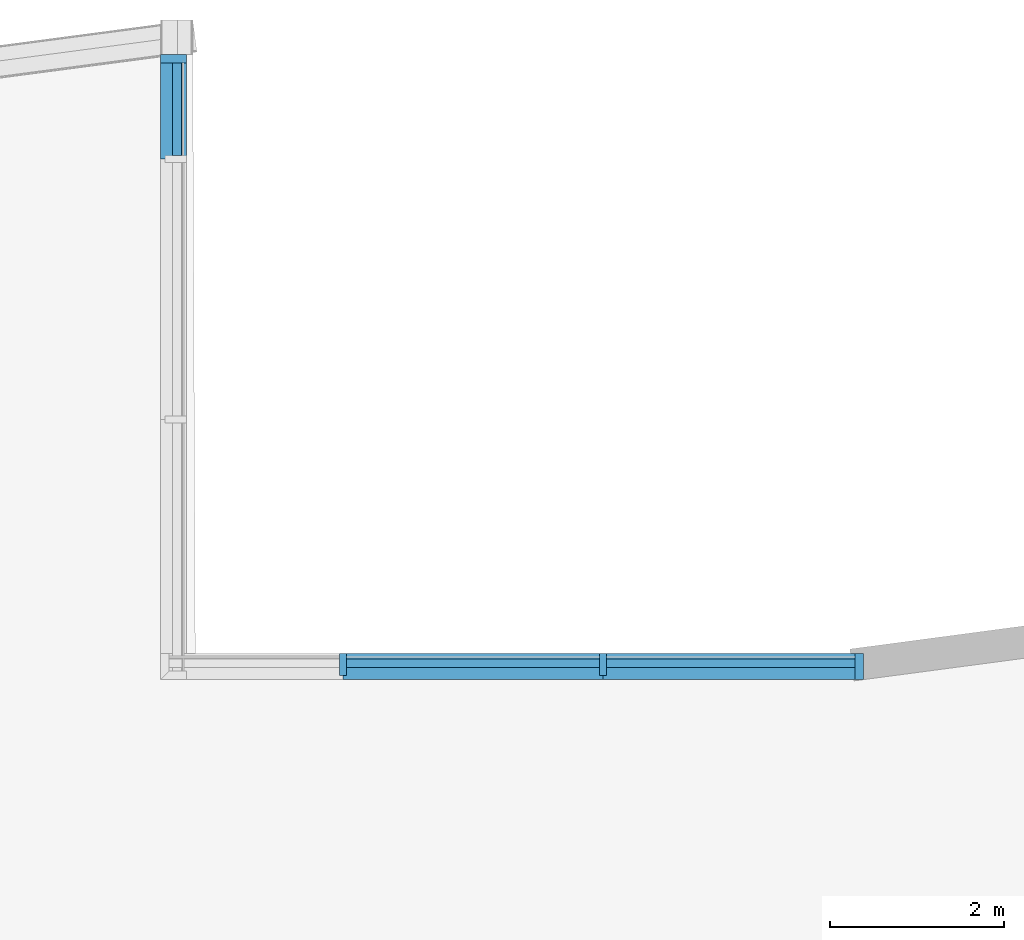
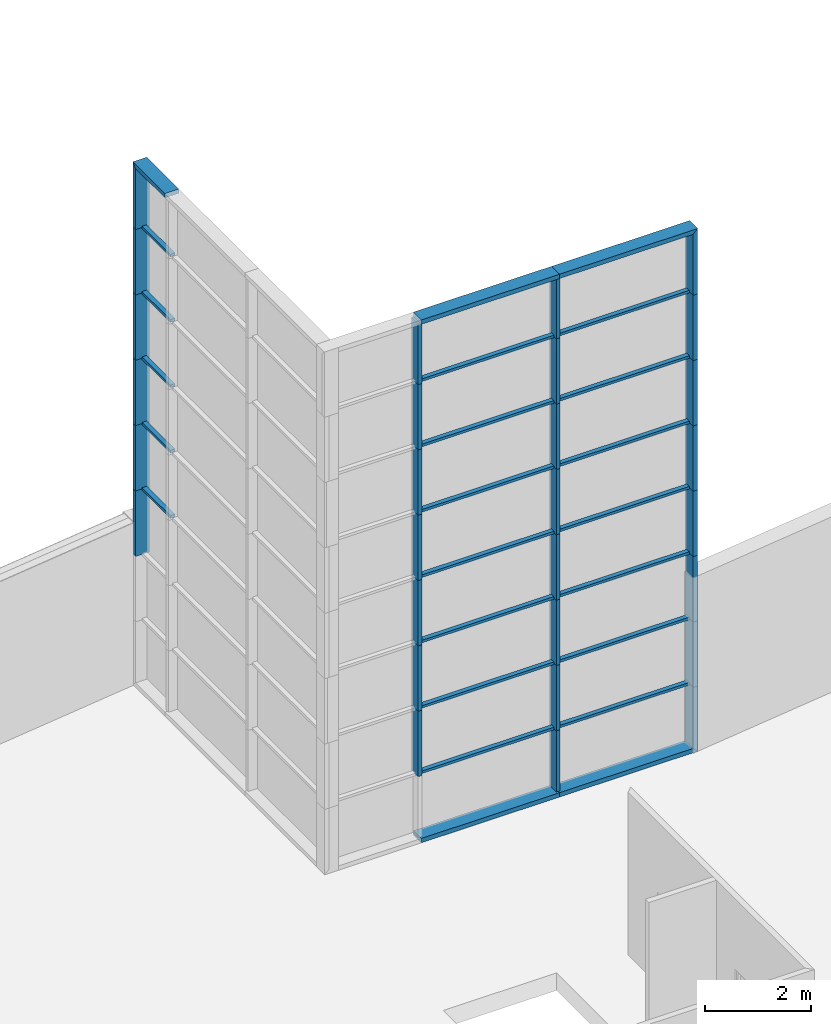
# One storey, part 8 of 27: 53 members, 2 elements without a shape of their own.
"""IFC2X3 building model written with IfcOpenShell, lengths in metres."""

from ifc_helpers import new_model, entity, si_unit, converted_unit, money_unit, direction, frame, origin_with_axes, place, context, subcontext, project, spatial, polyline, outline, extrude, clip, halfspace, material, type_object, element, aggregate, save


model = new_model("IFC2X3")

# Units and contexts
model_context = context("Model", 3, precision=1e-05, world=origin_with_axes(), true_north=direction((0.0, 1.0)))
body_context = subcontext(model_context, "Body", "Model", "MODEL_VIEW")
ifc_project = project(units=[si_unit("LENGTHUNIT", "METRE"), si_unit("AREAUNIT", "SQUARE_METRE"), si_unit("VOLUMEUNIT", "CUBIC_METRE"), converted_unit("PLANEANGLEUNIT", "DEGREE", entity("IfcPlaneAngleMeasure", 0.0174532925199), si_unit("PLANEANGLEUNIT", "RADIAN"), dimensions=[0, 0, 0, 0, 0, 0, 0]), si_unit("SOLIDANGLEUNIT", "STERADIAN"), money_unit("EUR"), converted_unit("TIMEUNIT", "Year", entity("IfcTimeMeasure", 31556926.0), si_unit("TIMEUNIT", "SECOND"), dimensions=[0, 0, 0, 0, 0, 0, 0]), si_unit("MASSUNIT", "GRAM"), si_unit("THERMODYNAMICTEMPERATUREUNIT", "DEGREE_CELSIUS"), si_unit("LUMINOUSINTENSITYUNIT", "LUMEN")], contexts=[model_context])

# Site, building, storey
site_placement = place(None, origin_with_axes())
site = spatial("IfcSite", under=ifc_project, at=site_placement, Name="Undefined", CompositionType="ELEMENT")
building_placement = place(site_placement, origin_with_axes())
building = spatial("IfcBuilding", under=site, at=building_placement, Name="Undefined", CompositionType="ELEMENT")
storey_placement = place(building_placement, frame((0.0, 0.0, 5.4), z_axis=(0.0, 0.0, 1.0), x_axis=(1.0, 0.0, 0.0)))
storey = spatial("IfcBuildingStorey", under=building, at=storey_placement, Name="R+1", CompositionType="ELEMENT", Elevation=5.4)

# Curtain wall, members
curtain_wall_type = type_object("IfcCurtainWallType", Name="Type de mur-rideau", PredefinedType="NOTDEFINED")
curtain_wall_1_placement = place(storey_placement, frame((29.5, 25.04409, 0.0), z_axis=(0.0, 0.0, 1.0), x_axis=(1.0, 0.0, 0.0)))
curtain_wall_1 = element("IfcCurtainWall", 1, at=curtain_wall_1_placement, inside=storey, type_object=curtain_wall_type, Name="CurtainWall_01", ObjectType="CURTAIN WALL")
ifc_material = material(Name="25 % 359672764")
member_type_1 = type_object("IfcMemberType", Name="Cadre 100 x 300", PredefinedType="NOTDEFINED")
member_1_placement = place(curtain_wall_1_placement, frame((0.0, 4.5, 12.0), z_axis=(0.0, 1.0, 0.0), x_axis=(0.0, 0.0, 1.0)))
member_1 = element("IfcMember", 2, at=member_1_placement, type_object=member_type_1, material=ifc_material, Name="Frame-Bnd-270", context=body_context, shape_type="Clipping", body=[
    clip(extrude(outline(polyline([(-0.25, 0.0), (0.05, 0.0), (0.05, 0.1), (-0.25, 0.1), (-0.25, 0.0)])), frame((0.0, 0.0, 0.0), z_axis=(0.0, 0.0, 1.0), x_axis=(0.0, 1.0, 0.0)), (0.0, 0.0, 1.0), 1.20529012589), halfspace(frame((-0.602645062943, 0.0, 0.602645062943), z_axis=(0.707106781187, 0.0, -0.707106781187), x_axis=(0.0, 1.0, 0.0)), True)),
])
member_2_placement = place(curtain_wall_1_placement, frame((0.0, 5.70529012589, 10.5), z_axis=(0.0, 0.0, 1.0), x_axis=(0.0, -1.0, 0.0)))
member_2 = element("IfcMember", 3, at=member_2_placement, type_object=member_type_1, material=ifc_material, Name="Frame-Bnd-261", context=body_context, shape_type="Clipping", body=[
    clip(extrude(outline(polyline([(-0.25, -0.1), (0.05, -0.1), (0.05, 0.0), (-0.25, 0.0), (-0.25, -0.1)])), frame((0.0, 0.0, 0.0), z_axis=(0.0, 0.0, 1.0), x_axis=(0.0, 1.0, 0.0)), (0.0, 0.0, 1.0), 1.5), halfspace(frame((0.75, 0.0, 0.75), z_axis=(-0.707106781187, 0.0, -0.707106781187), x_axis=(0.0, 1.0, 0.0)), True)),
])
member_3_placement = place(curtain_wall_1_placement, frame((0.0, 5.70529012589, 9.0), z_axis=(0.0, 0.0, 1.0), x_axis=(0.0, -1.0, 0.0)))
member_3 = element("IfcMember", 4, at=member_3_placement, type_object=member_type_1, material=ifc_material, Name="Frame-Bnd-262", context=body_context, shape_type="SweptSolid", body=[
    extrude(outline(polyline([(-0.25, -0.1), (0.05, -0.1), (0.05, 0.0), (-0.25, 0.0), (-0.25, -0.1)])), frame((0.0, 0.0, 0.0), z_axis=(0.0, 0.0, 1.0), x_axis=(0.0, 1.0, 0.0)), (0.0, 0.0, 1.0), 1.5),
])
member_4_placement = place(curtain_wall_1_placement, frame((0.0, 5.70529012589, 7.5), z_axis=(0.0, 0.0, 1.0), x_axis=(0.0, -1.0, 0.0)))
member_4 = element("IfcMember", 5, at=member_4_placement, type_object=member_type_1, material=ifc_material, Name="Frame-Bnd-263", context=body_context, shape_type="SweptSolid", body=[
    extrude(outline(polyline([(-0.25, -0.1), (0.05, -0.1), (0.05, 0.0), (-0.25, 0.0), (-0.25, -0.1)])), frame((0.0, 0.0, 0.0), z_axis=(0.0, 0.0, 1.0), x_axis=(0.0, 1.0, 0.0)), (0.0, 0.0, 1.0), 1.5),
])
member_5_placement = place(curtain_wall_1_placement, frame((0.0, 5.70529012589, 6.0), z_axis=(0.0, 0.0, 1.0), x_axis=(0.0, -1.0, 0.0)))
member_5 = element("IfcMember", 6, at=member_5_placement, type_object=member_type_1, material=ifc_material, Name="Frame-Bnd-264", context=body_context, shape_type="SweptSolid", body=[
    extrude(outline(polyline([(-0.25, -0.1), (0.05, -0.1), (0.05, 0.0), (-0.25, 0.0), (-0.25, -0.1)])), frame((0.0, 0.0, 0.0), z_axis=(0.0, 0.0, 1.0), x_axis=(0.0, 1.0, 0.0)), (0.0, 0.0, 1.0), 1.5),
])
member_6_placement = place(curtain_wall_1_placement, frame((0.0, 5.70529012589, 4.5), z_axis=(0.0, 0.0, 1.0), x_axis=(0.0, -1.0, 0.0)))
member_6 = element("IfcMember", 7, at=member_6_placement, type_object=member_type_1, material=ifc_material, Name="Frame-Bnd-265", context=body_context, shape_type="SweptSolid", body=[
    extrude(outline(polyline([(-0.25, -0.1), (0.05, -0.1), (0.05, 0.0), (-0.25, 0.0), (-0.25, -0.1)])), frame((0.0, 0.0, 0.0), z_axis=(0.0, 0.0, 1.0), x_axis=(0.0, 1.0, 0.0)), (0.0, 0.0, 1.0), 1.5),
])
member_7_placement = place(curtain_wall_1_placement, frame((0.0, 5.70529012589, 3.0), z_axis=(0.0, 0.0, 1.0), x_axis=(0.0, -1.0, 0.0)))
member_7 = element("IfcMember", 8, at=member_7_placement, type_object=member_type_1, material=ifc_material, Name="Frame-Bnd-266", context=body_context, shape_type="SweptSolid", body=[
    extrude(outline(polyline([(-0.25, -0.1), (0.05, -0.1), (0.05, 0.0), (-0.25, 0.0), (-0.25, -0.1)])), frame((0.0, 0.0, 0.0), z_axis=(0.0, 0.0, 1.0), x_axis=(0.0, 1.0, 0.0)), (0.0, 0.0, 1.0), 1.5),
])

curtain_wall_2_placement = place(storey_placement, frame((35.8499996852, 23.7940983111, 0.0), z_axis=(0.0, 0.0, 1.0), x_axis=(1.0, 0.0, 0.0)))
curtain_wall_2 = element("IfcCurtainWall", 9, at=curtain_wall_2_placement, inside=storey, type_object=curtain_wall_type, Name="CurtainWall_01", ObjectType="CURTAIN WALL")
member_8_placement = place(curtain_wall_2_placement, frame((1.5, 1.88888657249e-06, 0.0), z_axis=(-0.999999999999, -1.25925771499e-06, 0.0), x_axis=(0.0, 0.0, 1.0)))
member_8 = element("IfcMember", 10, at=member_8_placement, type_object=member_type_1, material=ifc_material, Name="Frame-Bnd-120", context=body_context, shape_type="Clipping", body=[
    clip(extrude(outline(polyline([(-0.25, -0.1), (0.05, -0.1), (0.05, 0.0), (-0.25, 0.0), (-0.25, -0.1)])), frame((0.0, 0.0, 0.0), z_axis=(0.0, 0.0, 1.0), x_axis=(0.0, 1.0, 0.0)), (0.0, 0.0, 1.0), 3.0), halfspace(frame((0.0, 0.0, 0.0), z_axis=(-0.707106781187, 0.0, 0.707106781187), x_axis=(0.0, -1.0, 0.0)), True)),
])
member_9_placement = place(curtain_wall_2_placement, frame((1.5, 1.88888657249e-06, 0.0), z_axis=(0.0, 0.0, 1.0), x_axis=(0.999999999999, 1.25925765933e-06, 0.0)))
member_9 = element("IfcMember", 11, at=member_9_placement, type_object=member_type_1, material=ifc_material, Name="Frame-Bnd-150", context=body_context, shape_type="Clipping", body=[
    clip(extrude(outline(polyline([(3.14814414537e-07, -0.25), (-6.29628829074e-08, 0.05), (-0.100000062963, 0.0499998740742), (-0.0999996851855, -0.250000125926), (3.14814414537e-07, -0.25)])), frame((0.0, 0.0, 0.0), z_axis=(0.0, 0.0, 1.0), x_axis=(0.999999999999, -1.25925765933e-06, 0.0)), (0.0, 0.0, 1.0), 1.5), halfspace(frame((0.0, 0.0, 0.0), z_axis=(0.707106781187, 0.0, 0.707106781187), x_axis=(0.0, -1.0, 0.0)), True)),
])
member_10_placement = place(curtain_wall_2_placement, frame((-1.5, -1.88888657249e-06, 0.0), z_axis=(-0.999999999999, -1.25925756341e-06, 0.0), x_axis=(0.0, 0.0, 1.0)))
member_10 = element("IfcMember", 12, at=member_10_placement, type_object=member_type_1, material=ifc_material, Name="Frame-Bnd-121", context=body_context, shape_type="SweptSolid", body=[
    extrude(outline(polyline([(-0.25, -0.1), (0.05, -0.1), (0.05, 0.0), (-0.25, 0.0), (-0.25, -0.1)])), frame((0.0, 0.0, 0.0), z_axis=(0.0, 0.0, 1.0), x_axis=(0.0, 1.0, 0.0)), (0.0, 0.0, 1.0), 3.0),
])
member_11_placement = place(curtain_wall_2_placement, frame((1.5, 1.88888657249e-06, 1.5), z_axis=(0.0, 0.0, 1.0), x_axis=(0.999999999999, 1.25925765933e-06, 0.0)))
member_11 = element("IfcMember", 13, at=member_11_placement, type_object=member_type_1, material=ifc_material, Name="Frame-Bnd-151", context=body_context, shape_type="SweptSolid", body=[
    extrude(outline(polyline([(3.14814414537e-07, -0.25), (-6.29628829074e-08, 0.05), (-0.100000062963, 0.0499998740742), (-0.0999996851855, -0.250000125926), (3.14814414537e-07, -0.25)])), frame((0.0, 0.0, 0.0), z_axis=(0.0, 0.0, 1.0), x_axis=(0.999999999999, -1.25925765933e-06, 0.0)), (0.0, 0.0, 1.0), 1.5),
])
member_12_placement = place(curtain_wall_2_placement, frame((1.5, 1.88888657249e-06, 3.0), z_axis=(0.0, 0.0, 1.0), x_axis=(0.999999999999, 1.25925765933e-06, 0.0)))
member_12 = element("IfcMember", 14, at=member_12_placement, type_object=member_type_1, material=ifc_material, Name="Frame-Bnd-152", context=body_context, shape_type="SweptSolid", body=[
    extrude(outline(polyline([(3.14814414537e-07, -0.25), (-6.29628829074e-08, 0.05), (-0.100000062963, 0.0499998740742), (-0.0999996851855, -0.250000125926), (3.14814414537e-07, -0.25)])), frame((0.0, 0.0, 0.0), z_axis=(0.0, 0.0, 1.0), x_axis=(0.999999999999, -1.25925765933e-06, 0.0)), (0.0, 0.0, 1.0), 1.5),
])
member_13_placement = place(curtain_wall_2_placement, frame((1.5, 1.88888657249e-06, 4.5), z_axis=(0.0, 0.0, 1.0), x_axis=(0.999999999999, 1.25925765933e-06, 0.0)))
member_13 = element("IfcMember", 15, at=member_13_placement, type_object=member_type_1, material=ifc_material, Name="Frame-Bnd-153", context=body_context, shape_type="SweptSolid", body=[
    extrude(outline(polyline([(3.14814414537e-07, -0.25), (-6.29628829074e-08, 0.05), (-0.100000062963, 0.0499998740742), (-0.0999996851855, -0.250000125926), (3.14814414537e-07, -0.25)])), frame((0.0, 0.0, 0.0), z_axis=(0.0, 0.0, 1.0), x_axis=(0.999999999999, -1.25925765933e-06, 0.0)), (0.0, 0.0, 1.0), 1.5),
])
member_14_placement = place(curtain_wall_2_placement, frame((1.5, 1.88888657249e-06, 6.0), z_axis=(0.0, 0.0, 1.0), x_axis=(0.999999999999, 1.25925765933e-06, 0.0)))
member_14 = element("IfcMember", 16, at=member_14_placement, type_object=member_type_1, material=ifc_material, Name="Frame-Bnd-154", context=body_context, shape_type="SweptSolid", body=[
    extrude(outline(polyline([(3.14814414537e-07, -0.25), (-6.29628829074e-08, 0.05), (-0.100000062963, 0.0499998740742), (-0.0999996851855, -0.250000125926), (3.14814414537e-07, -0.25)])), frame((0.0, 0.0, 0.0), z_axis=(0.0, 0.0, 1.0), x_axis=(0.999999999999, -1.25925765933e-06, 0.0)), (0.0, 0.0, 1.0), 1.5),
])
member_15_placement = place(curtain_wall_2_placement, frame((1.5, 1.88888657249e-06, 7.5), z_axis=(0.0, 0.0, 1.0), x_axis=(0.999999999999, 1.25925765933e-06, 0.0)))
member_15 = element("IfcMember", 17, at=member_15_placement, type_object=member_type_1, material=ifc_material, Name="Frame-Bnd-155", context=body_context, shape_type="SweptSolid", body=[
    extrude(outline(polyline([(3.14814414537e-07, -0.25), (-6.29628829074e-08, 0.05), (-0.100000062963, 0.0499998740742), (-0.0999996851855, -0.250000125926), (3.14814414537e-07, -0.25)])), frame((0.0, 0.0, 0.0), z_axis=(0.0, 0.0, 1.0), x_axis=(0.999999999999, -1.25925765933e-06, 0.0)), (0.0, 0.0, 1.0), 1.5),
])
member_16_placement = place(curtain_wall_2_placement, frame((1.5, 1.88888657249e-06, 9.0), z_axis=(0.0, 0.0, 1.0), x_axis=(0.999999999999, 1.25925765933e-06, 0.0)))
member_16 = element("IfcMember", 18, at=member_16_placement, type_object=member_type_1, material=ifc_material, Name="Frame-Bnd-156", context=body_context, shape_type="SweptSolid", body=[
    extrude(outline(polyline([(3.14814414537e-07, -0.25), (-6.29628829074e-08, 0.05), (-0.100000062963, 0.0499998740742), (-0.0999996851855, -0.250000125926), (3.14814414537e-07, -0.25)])), frame((0.0, 0.0, 0.0), z_axis=(0.0, 0.0, 1.0), x_axis=(0.999999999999, -1.25925765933e-06, 0.0)), (0.0, 0.0, 1.0), 1.5),
])
member_17_placement = place(curtain_wall_2_placement, frame((1.5, 1.88888657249e-06, 10.5), z_axis=(0.0, 0.0, 1.0), x_axis=(0.999999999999, 1.25925765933e-06, 0.0)))
member_17 = element("IfcMember", 19, at=member_17_placement, type_object=member_type_1, material=ifc_material, Name="Frame-Bnd-157", context=body_context, shape_type="Clipping", body=[
    clip(extrude(outline(polyline([(3.14814414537e-07, -0.25), (-6.29628829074e-08, 0.05), (-0.100000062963, 0.0499998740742), (-0.0999996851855, -0.250000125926), (3.14814414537e-07, -0.25)])), frame((0.0, 0.0, 0.0), z_axis=(0.0, 0.0, 1.0), x_axis=(0.999999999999, -1.25925765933e-06, 0.0)), (0.0, 0.0, 1.0), 1.5), halfspace(frame((-0.75, 0.0, 0.75), z_axis=(0.707106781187, 0.0, -0.707106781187), x_axis=(0.0, 1.0, 0.0)), True)),
])
member_18_placement = place(curtain_wall_2_placement, frame((1.5, 1.88888657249e-06, 12.0), z_axis=(-0.999999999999, -1.25925771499e-06, 0.0), x_axis=(0.0, 0.0, 1.0)))
member_18 = element("IfcMember", 20, at=member_18_placement, type_object=member_type_1, material=ifc_material, Name="Frame-Bnd-178", context=body_context, shape_type="Clipping", body=[
    clip(extrude(outline(polyline([(-0.25, 0.0), (0.05, 0.0), (0.05, 0.1), (-0.25, 0.1), (-0.25, 0.0)])), frame((0.0, 0.0, 0.0), z_axis=(0.0, 0.0, 1.0), x_axis=(0.0, 1.0, 0.0)), (0.0, 0.0, 1.0), 3.0), halfspace(frame((0.0, 0.0, 0.0), z_axis=(0.707106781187, 0.0, 0.707106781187), x_axis=(0.0, -1.0, 0.0)), True)),
])
member_19_placement = place(curtain_wall_2_placement, frame((-1.5, -1.88888657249e-06, 12.0), z_axis=(-0.999999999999, -1.25925756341e-06, 0.0), x_axis=(0.0, 0.0, 1.0)))
member_19 = element("IfcMember", 21, at=member_19_placement, type_object=member_type_1, material=ifc_material, Name="Frame-Bnd-178", context=body_context, shape_type="SweptSolid", body=[
    extrude(outline(polyline([(-0.25, 0.0), (0.05, 0.0), (0.05, 0.1), (-0.25, 0.1), (-0.25, 0.0)])), frame((0.0, 0.0, 0.0), z_axis=(0.0, 0.0, 1.0), x_axis=(0.0, 1.0, 0.0)), (0.0, 0.0, 1.0), 3.0),
])
member_type_2 = type_object("IfcMemberType", Name="Montant 80 x 250", PredefinedType="NOTDEFINED")
member_20_placement = place(curtain_wall_2_placement, frame((-1.5, -1.88888657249e-06, 0.0), z_axis=(0.0, 0.0, 1.0), x_axis=(0.999999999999, 1.25925765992e-06, 0.0)))
member_20 = element("IfcMember", 22, at=member_20_placement, type_object=member_type_2, material=ifc_material, Name="Frame-Mll-414", context=body_context, shape_type="SweptSolid", body=[
    extrude(outline(polyline([(0.0400002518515, -0.19999994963), (0.0399999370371, 0.0500000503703), (-0.0400000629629, 0.0499999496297), (-0.0399997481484, -0.20000005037), (0.0400002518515, -0.19999994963)])), frame((0.0, 0.0, 0.1), z_axis=(0.0, 0.0, 1.0), x_axis=(0.999999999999, -1.25925765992e-06, 0.0)), (0.0, 0.0, 1.0), 1.4),
])
member_21_placement = place(curtain_wall_2_placement, frame((-1.5, -1.88888657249e-06, 1.5), z_axis=(0.0, 0.0, 1.0), x_axis=(0.999999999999, 1.25925765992e-06, 0.0)))
member_21 = element("IfcMember", 23, at=member_21_placement, type_object=member_type_2, material=ifc_material, Name="Frame-Mll-416", context=body_context, shape_type="SweptSolid", body=[
    extrude(outline(polyline([(0.0400002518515, -0.19999994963), (0.0399999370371, 0.0500000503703), (-0.0400000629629, 0.0499999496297), (-0.0399997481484, -0.20000005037), (0.0400002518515, -0.19999994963)])), frame((0.0, 0.0, 0.0), z_axis=(0.0, 0.0, 1.0), x_axis=(0.999999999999, -1.25925765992e-06, 0.0)), (0.0, 0.0, 1.0), 1.5),
])
member_22_placement = place(curtain_wall_2_placement, frame((-4.5, -5.66665926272e-06, 1.5), z_axis=(0.0, 0.0, 1.0), x_axis=(0.999999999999, 1.25925765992e-06, 0.0)))
member_22 = element("IfcMember", 24, at=member_22_placement, type_object=member_type_2, material=ifc_material, Name="Frame-Mll-417", context=body_context, shape_type="SweptSolid", body=[
    extrude(outline(polyline([(0.0400002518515, -0.19999994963), (0.0399999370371, 0.0500000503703), (-0.0400000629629, 0.0499999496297), (-0.0399997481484, -0.20000005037), (0.0400002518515, -0.19999994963)])), frame((0.0, 0.0, 0.0), z_axis=(0.0, 0.0, 1.0), x_axis=(0.999999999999, -1.25925765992e-06, 0.0)), (0.0, 0.0, 1.0), 1.5),
])
member_23_placement = place(curtain_wall_2_placement, frame((-1.5, -1.88888657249e-06, 3.0), z_axis=(0.0, 0.0, 1.0), x_axis=(0.999999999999, 1.25925765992e-06, 0.0)))
member_23 = element("IfcMember", 25, at=member_23_placement, type_object=member_type_2, material=ifc_material, Name="Frame-Mll-418", context=body_context, shape_type="SweptSolid", body=[
    extrude(outline(polyline([(0.0400002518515, -0.19999994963), (0.0399999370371, 0.0500000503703), (-0.0400000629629, 0.0499999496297), (-0.0399997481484, -0.20000005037), (0.0400002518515, -0.19999994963)])), frame((0.0, 0.0, 0.0), z_axis=(0.0, 0.0, 1.0), x_axis=(0.999999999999, -1.25925765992e-06, 0.0)), (0.0, 0.0, 1.0), 1.5),
])
member_24_placement = place(curtain_wall_2_placement, frame((-4.5, -5.66665926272e-06, 3.0), z_axis=(0.0, 0.0, 1.0), x_axis=(0.999999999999, 1.25925765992e-06, 0.0)))
member_24 = element("IfcMember", 26, at=member_24_placement, type_object=member_type_2, material=ifc_material, Name="Frame-Mll-419", context=body_context, shape_type="SweptSolid", body=[
    extrude(outline(polyline([(0.0400002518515, -0.19999994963), (0.0399999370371, 0.0500000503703), (-0.0400000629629, 0.0499999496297), (-0.0399997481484, -0.20000005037), (0.0400002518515, -0.19999994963)])), frame((0.0, 0.0, 0.0), z_axis=(0.0, 0.0, 1.0), x_axis=(0.999999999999, -1.25925765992e-06, 0.0)), (0.0, 0.0, 1.0), 1.5),
])
member_25_placement = place(curtain_wall_2_placement, frame((-1.5, -1.88888657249e-06, 4.5), z_axis=(0.0, 0.0, 1.0), x_axis=(0.999999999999, 1.25925765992e-06, 0.0)))
member_25 = element("IfcMember", 27, at=member_25_placement, type_object=member_type_2, material=ifc_material, Name="Frame-Mll-420", context=body_context, shape_type="SweptSolid", body=[
    extrude(outline(polyline([(0.0400002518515, -0.19999994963), (0.0399999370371, 0.0500000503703), (-0.0400000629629, 0.0499999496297), (-0.0399997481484, -0.20000005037), (0.0400002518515, -0.19999994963)])), frame((0.0, 0.0, 0.0), z_axis=(0.0, 0.0, 1.0), x_axis=(0.999999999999, -1.25925765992e-06, 0.0)), (0.0, 0.0, 1.0), 1.5),
])
member_26_placement = place(curtain_wall_2_placement, frame((-4.5, -5.66665926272e-06, 4.5), z_axis=(0.0, 0.0, 1.0), x_axis=(0.999999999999, 1.25925765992e-06, 0.0)))
member_26 = element("IfcMember", 28, at=member_26_placement, type_object=member_type_2, material=ifc_material, Name="Frame-Mll-421", context=body_context, shape_type="SweptSolid", body=[
    extrude(outline(polyline([(0.0400002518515, -0.19999994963), (0.0399999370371, 0.0500000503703), (-0.0400000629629, 0.0499999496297), (-0.0399997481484, -0.20000005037), (0.0400002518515, -0.19999994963)])), frame((0.0, 0.0, 0.0), z_axis=(0.0, 0.0, 1.0), x_axis=(0.999999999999, -1.25925765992e-06, 0.0)), (0.0, 0.0, 1.0), 1.5),
])
member_27_placement = place(curtain_wall_2_placement, frame((-1.5, -1.88888657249e-06, 6.0), z_axis=(0.0, 0.0, 1.0), x_axis=(0.999999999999, 1.25925765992e-06, 0.0)))
member_27 = element("IfcMember", 29, at=member_27_placement, type_object=member_type_2, material=ifc_material, Name="Frame-Mll-422", context=body_context, shape_type="SweptSolid", body=[
    extrude(outline(polyline([(0.0400002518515, -0.19999994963), (0.0399999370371, 0.0500000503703), (-0.0400000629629, 0.0499999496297), (-0.0399997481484, -0.20000005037), (0.0400002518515, -0.19999994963)])), frame((0.0, 0.0, 0.0), z_axis=(0.0, 0.0, 1.0), x_axis=(0.999999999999, -1.25925765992e-06, 0.0)), (0.0, 0.0, 1.0), 1.5),
])
member_28_placement = place(curtain_wall_2_placement, frame((-4.5, -5.66665926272e-06, 6.0), z_axis=(0.0, 0.0, 1.0), x_axis=(0.999999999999, 1.25925765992e-06, 0.0)))
member_28 = element("IfcMember", 30, at=member_28_placement, type_object=member_type_2, material=ifc_material, Name="Frame-Mll-423", context=body_context, shape_type="SweptSolid", body=[
    extrude(outline(polyline([(0.0400002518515, -0.19999994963), (0.0399999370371, 0.0500000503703), (-0.0400000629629, 0.0499999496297), (-0.0399997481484, -0.20000005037), (0.0400002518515, -0.19999994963)])), frame((0.0, 0.0, 0.0), z_axis=(0.0, 0.0, 1.0), x_axis=(0.999999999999, -1.25925765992e-06, 0.0)), (0.0, 0.0, 1.0), 1.5),
])
member_29_placement = place(curtain_wall_2_placement, frame((-1.5, -1.88888657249e-06, 7.5), z_axis=(0.0, 0.0, 1.0), x_axis=(0.999999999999, 1.25925765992e-06, 0.0)))
member_29 = element("IfcMember", 31, at=member_29_placement, type_object=member_type_2, material=ifc_material, Name="Frame-Mll-424", context=body_context, shape_type="SweptSolid", body=[
    extrude(outline(polyline([(0.0400002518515, -0.19999994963), (0.0399999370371, 0.0500000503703), (-0.0400000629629, 0.0499999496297), (-0.0399997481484, -0.20000005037), (0.0400002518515, -0.19999994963)])), frame((0.0, 0.0, 0.0), z_axis=(0.0, 0.0, 1.0), x_axis=(0.999999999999, -1.25925765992e-06, 0.0)), (0.0, 0.0, 1.0), 1.5),
])
member_30_placement = place(curtain_wall_2_placement, frame((-4.5, -5.66665926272e-06, 7.5), z_axis=(0.0, 0.0, 1.0), x_axis=(0.999999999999, 1.25925765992e-06, 0.0)))
member_30 = element("IfcMember", 32, at=member_30_placement, type_object=member_type_2, material=ifc_material, Name="Frame-Mll-425", context=body_context, shape_type="SweptSolid", body=[
    extrude(outline(polyline([(0.0400002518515, -0.19999994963), (0.0399999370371, 0.0500000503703), (-0.0400000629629, 0.0499999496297), (-0.0399997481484, -0.20000005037), (0.0400002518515, -0.19999994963)])), frame((0.0, 0.0, 0.0), z_axis=(0.0, 0.0, 1.0), x_axis=(0.999999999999, -1.25925765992e-06, 0.0)), (0.0, 0.0, 1.0), 1.5),
])
member_31_placement = place(curtain_wall_2_placement, frame((-1.5, -1.88888657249e-06, 9.0), z_axis=(0.0, 0.0, 1.0), x_axis=(0.999999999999, 1.25925765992e-06, 0.0)))
member_31 = element("IfcMember", 33, at=member_31_placement, type_object=member_type_2, material=ifc_material, Name="Frame-Mll-426", context=body_context, shape_type="SweptSolid", body=[
    extrude(outline(polyline([(0.0400002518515, -0.19999994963), (0.0399999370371, 0.0500000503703), (-0.0400000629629, 0.0499999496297), (-0.0399997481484, -0.20000005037), (0.0400002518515, -0.19999994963)])), frame((0.0, 0.0, 0.0), z_axis=(0.0, 0.0, 1.0), x_axis=(0.999999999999, -1.25925765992e-06, 0.0)), (0.0, 0.0, 1.0), 1.5),
])
member_32_placement = place(curtain_wall_2_placement, frame((-4.5, -5.66665926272e-06, 9.0), z_axis=(0.0, 0.0, 1.0), x_axis=(0.999999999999, 1.25925765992e-06, 0.0)))
member_32 = element("IfcMember", 34, at=member_32_placement, type_object=member_type_2, material=ifc_material, Name="Frame-Mll-427", context=body_context, shape_type="SweptSolid", body=[
    extrude(outline(polyline([(0.0400002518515, -0.19999994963), (0.0399999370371, 0.0500000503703), (-0.0400000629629, 0.0499999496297), (-0.0399997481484, -0.20000005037), (0.0400002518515, -0.19999994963)])), frame((0.0, 0.0, 0.0), z_axis=(0.0, 0.0, 1.0), x_axis=(0.999999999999, -1.25925765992e-06, 0.0)), (0.0, 0.0, 1.0), 1.5),
])
member_33_placement = place(curtain_wall_2_placement, frame((-1.5, -1.88888657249e-06, 10.5), z_axis=(0.0, 0.0, 1.0), x_axis=(0.999999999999, 1.25925765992e-06, 0.0)))
member_33 = element("IfcMember", 35, at=member_33_placement, type_object=member_type_2, material=ifc_material, Name="Frame-Mll-428", context=body_context, shape_type="SweptSolid", body=[
    extrude(outline(polyline([(0.0400002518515, -0.19999994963), (0.0399999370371, 0.0500000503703), (-0.0400000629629, 0.0499999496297), (-0.0399997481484, -0.20000005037), (0.0400002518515, -0.19999994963)])), frame((0.0, 0.0, 0.0), z_axis=(0.0, 0.0, 1.0), x_axis=(0.999999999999, -1.25925765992e-06, 0.0)), (0.0, 0.0, 1.0), 1.4),
])
member_34_placement = place(curtain_wall_2_placement, frame((-4.5, -5.66665926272e-06, 10.5), z_axis=(0.0, 0.0, 1.0), x_axis=(0.999999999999, 1.25925765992e-06, 0.0)))
member_34 = element("IfcMember", 36, at=member_34_placement, type_object=member_type_2, material=ifc_material, Name="Frame-Mll-429", context=body_context, shape_type="SweptSolid", body=[
    extrude(outline(polyline([(0.0400002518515, -0.19999994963), (0.0399999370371, 0.0500000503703), (-0.0400000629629, 0.0499999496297), (-0.0399997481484, -0.20000005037), (0.0400002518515, -0.19999994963)])), frame((0.0, 0.0, 0.0), z_axis=(0.0, 0.0, 1.0), x_axis=(0.999999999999, -1.25925765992e-06, 0.0)), (0.0, 0.0, 1.0), 1.4),
])

# Member
member_type_3 = type_object("IfcMemberType", Name="Traverse 60 x 100", PredefinedType="NOTDEFINED")
member_35_placement = place(curtain_wall_1_placement, frame((0.0, 4.5, 10.5), z_axis=(0.0, 1.0, 0.0), x_axis=(0.0, 0.0, 1.0)))
member_35 = element("IfcMember", 37, at=member_35_placement, type_object=member_type_3, material=ifc_material, Name="Frame-Trs-038", context=body_context, shape_type="SweptSolid", body=[
    extrude(outline(polyline([(-0.11, -0.03), (-0.01, -0.03), (-0.01, 0.03), (-0.11, 0.03), (-0.11, -0.03)])), frame((0.0, 0.0, 0.04), z_axis=(0.0, 0.0, 1.0), x_axis=(0.0, 1.0, 0.0)), (0.0, 0.0, 1.0), 1.06529012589),
])

member_36_placement = place(curtain_wall_1_placement, frame((0.0, 4.5, 9.0), z_axis=(0.0, 1.0, 0.0), x_axis=(0.0, 0.0, 1.0)))
member_36 = element("IfcMember", 38, at=member_36_placement, type_object=member_type_3, material=ifc_material, Name="Frame-Trs-039", context=body_context, shape_type="SweptSolid", body=[
    extrude(outline(polyline([(-0.11, -0.03), (-0.01, -0.03), (-0.01, 0.03), (-0.11, 0.03), (-0.11, -0.03)])), frame((0.0, 0.0, 0.04), z_axis=(0.0, 0.0, 1.0), x_axis=(0.0, 1.0, 0.0)), (0.0, 0.0, 1.0), 1.06529012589),
])

member_37_placement = place(curtain_wall_1_placement, frame((0.0, 4.5, 7.5), z_axis=(0.0, 1.0, 0.0), x_axis=(0.0, 0.0, 1.0)))
member_37 = element("IfcMember", 39, at=member_37_placement, type_object=member_type_3, material=ifc_material, Name="Frame-Trs-040", context=body_context, shape_type="SweptSolid", body=[
    extrude(outline(polyline([(-0.11, -0.03), (-0.01, -0.03), (-0.01, 0.03), (-0.11, 0.03), (-0.11, -0.03)])), frame((0.0, 0.0, 0.04), z_axis=(0.0, 0.0, 1.0), x_axis=(0.0, 1.0, 0.0)), (0.0, 0.0, 1.0), 1.06529012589),
])

member_38_placement = place(curtain_wall_1_placement, frame((0.0, 4.5, 6.0), z_axis=(0.0, 1.0, 0.0), x_axis=(0.0, 0.0, 1.0)))
member_38 = element("IfcMember", 40, at=member_38_placement, type_object=member_type_3, material=ifc_material, Name="Frame-Trs-041", context=body_context, shape_type="SweptSolid", body=[
    extrude(outline(polyline([(-0.11, -0.03), (-0.01, -0.03), (-0.01, 0.03), (-0.11, 0.03), (-0.11, -0.03)])), frame((0.0, 0.0, 0.04), z_axis=(0.0, 0.0, 1.0), x_axis=(0.0, 1.0, 0.0)), (0.0, 0.0, 1.0), 1.06529012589),
])

member_39_placement = place(curtain_wall_1_placement, frame((0.0, 4.5, 4.5), z_axis=(0.0, 1.0, 0.0), x_axis=(0.0, 0.0, 1.0)))
member_39 = element("IfcMember", 41, at=member_39_placement, type_object=member_type_3, material=ifc_material, Name="Frame-Trs-042", context=body_context, shape_type="SweptSolid", body=[
    extrude(outline(polyline([(-0.11, -0.03), (-0.01, -0.03), (-0.01, 0.03), (-0.11, 0.03), (-0.11, -0.03)])), frame((0.0, 0.0, 0.04), z_axis=(0.0, 0.0, 1.0), x_axis=(0.0, 1.0, 0.0)), (0.0, 0.0, 1.0), 1.06529012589),
])

aggregate(curtain_wall_1, [member_1, member_2, member_35, member_3, member_36, member_4, member_37, member_5, member_38, member_6, member_39, member_7])

member_40_placement = place(curtain_wall_2_placement, frame((1.5, 1.88888657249e-06, 1.5), z_axis=(-0.999999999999, -1.25925771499e-06, 0.0), x_axis=(0.0, 0.0, 1.0)))
member_40 = element("IfcMember", 42, at=member_40_placement, type_object=member_type_3, material=ifc_material, Name="Frame-Trs-946", context=body_context, shape_type="SweptSolid", body=[
    extrude(outline(polyline([(-0.11, -0.03), (-0.01, -0.03), (-0.01, 0.03), (-0.11, 0.03), (-0.11, -0.03)])), frame((0.0, 0.0, 0.1), z_axis=(0.0, 0.0, 1.0), x_axis=(0.0, 1.0, 0.0)), (0.0, 0.0, 1.0), 2.86),
])

member_41_placement = place(curtain_wall_2_placement, frame((-1.5, -1.88888657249e-06, 1.5), z_axis=(-0.999999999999, -1.25925756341e-06, 0.0), x_axis=(0.0, 0.0, 1.0)))
member_41 = element("IfcMember", 43, at=member_41_placement, type_object=member_type_3, material=ifc_material, Name="Frame-Trs-947", context=body_context, shape_type="SweptSolid", body=[
    extrude(outline(polyline([(-0.11, -0.03), (-0.01, -0.03), (-0.01, 0.03), (-0.11, 0.03), (-0.11, -0.03)])), frame((0.0, 0.0, 0.04), z_axis=(0.0, 0.0, 1.0), x_axis=(0.0, 1.0, 0.0)), (0.0, 0.0, 1.0), 2.92),
])

member_42_placement = place(curtain_wall_2_placement, frame((1.5, 1.88888657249e-06, 3.0), z_axis=(-0.999999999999, -1.25925771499e-06, 0.0), x_axis=(0.0, 0.0, 1.0)))
member_42 = element("IfcMember", 44, at=member_42_placement, type_object=member_type_3, material=ifc_material, Name="Frame-Trs-949", context=body_context, shape_type="SweptSolid", body=[
    extrude(outline(polyline([(-0.11, -0.03), (-0.01, -0.03), (-0.01, 0.03), (-0.11, 0.03), (-0.11, -0.03)])), frame((0.0, 0.0, 0.1), z_axis=(0.0, 0.0, 1.0), x_axis=(0.0, 1.0, 0.0)), (0.0, 0.0, 1.0), 2.86),
])

member_43_placement = place(curtain_wall_2_placement, frame((-1.5, -1.88888657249e-06, 3.0), z_axis=(-0.999999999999, -1.25925756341e-06, 0.0), x_axis=(0.0, 0.0, 1.0)))
member_43 = element("IfcMember", 45, at=member_43_placement, type_object=member_type_3, material=ifc_material, Name="Frame-Trs-950", context=body_context, shape_type="SweptSolid", body=[
    extrude(outline(polyline([(-0.11, -0.03), (-0.01, -0.03), (-0.01, 0.03), (-0.11, 0.03), (-0.11, -0.03)])), frame((0.0, 0.0, 0.04), z_axis=(0.0, 0.0, 1.0), x_axis=(0.0, 1.0, 0.0)), (0.0, 0.0, 1.0), 2.92),
])

member_44_placement = place(curtain_wall_2_placement, frame((1.5, 1.88888657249e-06, 4.5), z_axis=(-0.999999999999, -1.25925771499e-06, 0.0), x_axis=(0.0, 0.0, 1.0)))
member_44 = element("IfcMember", 46, at=member_44_placement, type_object=member_type_3, material=ifc_material, Name="Frame-Trs-952", context=body_context, shape_type="SweptSolid", body=[
    extrude(outline(polyline([(-0.11, -0.03), (-0.01, -0.03), (-0.01, 0.03), (-0.11, 0.03), (-0.11, -0.03)])), frame((0.0, 0.0, 0.1), z_axis=(0.0, 0.0, 1.0), x_axis=(0.0, 1.0, 0.0)), (0.0, 0.0, 1.0), 2.86),
])

member_45_placement = place(curtain_wall_2_placement, frame((-1.5, -1.88888657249e-06, 4.5), z_axis=(-0.999999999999, -1.25925756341e-06, 0.0), x_axis=(0.0, 0.0, 1.0)))
member_45 = element("IfcMember", 47, at=member_45_placement, type_object=member_type_3, material=ifc_material, Name="Frame-Trs-953", context=body_context, shape_type="SweptSolid", body=[
    extrude(outline(polyline([(-0.11, -0.03), (-0.01, -0.03), (-0.01, 0.03), (-0.11, 0.03), (-0.11, -0.03)])), frame((0.0, 0.0, 0.04), z_axis=(0.0, 0.0, 1.0), x_axis=(0.0, 1.0, 0.0)), (0.0, 0.0, 1.0), 2.92),
])

member_46_placement = place(curtain_wall_2_placement, frame((1.5, 1.88888657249e-06, 6.0), z_axis=(-0.999999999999, -1.25925771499e-06, 0.0), x_axis=(0.0, 0.0, 1.0)))
member_46 = element("IfcMember", 48, at=member_46_placement, type_object=member_type_3, material=ifc_material, Name="Frame-Trs-955", context=body_context, shape_type="SweptSolid", body=[
    extrude(outline(polyline([(-0.11, -0.03), (-0.01, -0.03), (-0.01, 0.03), (-0.11, 0.03), (-0.11, -0.03)])), frame((0.0, 0.0, 0.1), z_axis=(0.0, 0.0, 1.0), x_axis=(0.0, 1.0, 0.0)), (0.0, 0.0, 1.0), 2.86),
])

member_47_placement = place(curtain_wall_2_placement, frame((-1.5, -1.88888657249e-06, 6.0), z_axis=(-0.999999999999, -1.25925756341e-06, 0.0), x_axis=(0.0, 0.0, 1.0)))
member_47 = element("IfcMember", 49, at=member_47_placement, type_object=member_type_3, material=ifc_material, Name="Frame-Trs-956", context=body_context, shape_type="SweptSolid", body=[
    extrude(outline(polyline([(-0.11, -0.03), (-0.01, -0.03), (-0.01, 0.03), (-0.11, 0.03), (-0.11, -0.03)])), frame((0.0, 0.0, 0.04), z_axis=(0.0, 0.0, 1.0), x_axis=(0.0, 1.0, 0.0)), (0.0, 0.0, 1.0), 2.92),
])

member_48_placement = place(curtain_wall_2_placement, frame((1.5, 1.88888657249e-06, 7.5), z_axis=(-0.999999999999, -1.25925771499e-06, 0.0), x_axis=(0.0, 0.0, 1.0)))
member_48 = element("IfcMember", 50, at=member_48_placement, type_object=member_type_3, material=ifc_material, Name="Frame-Trs-958", context=body_context, shape_type="SweptSolid", body=[
    extrude(outline(polyline([(-0.11, -0.03), (-0.01, -0.03), (-0.01, 0.03), (-0.11, 0.03), (-0.11, -0.03)])), frame((0.0, 0.0, 0.1), z_axis=(0.0, 0.0, 1.0), x_axis=(0.0, 1.0, 0.0)), (0.0, 0.0, 1.0), 2.86),
])

member_49_placement = place(curtain_wall_2_placement, frame((-1.5, -1.88888657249e-06, 7.5), z_axis=(-0.999999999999, -1.25925756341e-06, 0.0), x_axis=(0.0, 0.0, 1.0)))
member_49 = element("IfcMember", 51, at=member_49_placement, type_object=member_type_3, material=ifc_material, Name="Frame-Trs-959", context=body_context, shape_type="SweptSolid", body=[
    extrude(outline(polyline([(-0.11, -0.03), (-0.01, -0.03), (-0.01, 0.03), (-0.11, 0.03), (-0.11, -0.03)])), frame((0.0, 0.0, 0.04), z_axis=(0.0, 0.0, 1.0), x_axis=(0.0, 1.0, 0.0)), (0.0, 0.0, 1.0), 2.92),
])

member_50_placement = place(curtain_wall_2_placement, frame((1.5, 1.88888657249e-06, 9.0), z_axis=(-0.999999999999, -1.25925771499e-06, 0.0), x_axis=(0.0, 0.0, 1.0)))
member_50 = element("IfcMember", 52, at=member_50_placement, type_object=member_type_3, material=ifc_material, Name="Frame-Trs-961", context=body_context, shape_type="SweptSolid", body=[
    extrude(outline(polyline([(-0.11, -0.03), (-0.01, -0.03), (-0.01, 0.03), (-0.11, 0.03), (-0.11, -0.03)])), frame((0.0, 0.0, 0.1), z_axis=(0.0, 0.0, 1.0), x_axis=(0.0, 1.0, 0.0)), (0.0, 0.0, 1.0), 2.86),
])

member_51_placement = place(curtain_wall_2_placement, frame((-1.5, -1.88888657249e-06, 9.0), z_axis=(-0.999999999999, -1.25925756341e-06, 0.0), x_axis=(0.0, 0.0, 1.0)))
member_51 = element("IfcMember", 53, at=member_51_placement, type_object=member_type_3, material=ifc_material, Name="Frame-Trs-962", context=body_context, shape_type="SweptSolid", body=[
    extrude(outline(polyline([(-0.11, -0.03), (-0.01, -0.03), (-0.01, 0.03), (-0.11, 0.03), (-0.11, -0.03)])), frame((0.0, 0.0, 0.04), z_axis=(0.0, 0.0, 1.0), x_axis=(0.0, 1.0, 0.0)), (0.0, 0.0, 1.0), 2.92),
])

member_52_placement = place(curtain_wall_2_placement, frame((1.5, 1.88888657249e-06, 10.5), z_axis=(-0.999999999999, -1.25925771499e-06, 0.0), x_axis=(0.0, 0.0, 1.0)))
member_52 = element("IfcMember", 54, at=member_52_placement, type_object=member_type_3, material=ifc_material, Name="Frame-Trs-964", context=body_context, shape_type="SweptSolid", body=[
    extrude(outline(polyline([(-0.11, -0.03), (-0.01, -0.03), (-0.01, 0.03), (-0.11, 0.03), (-0.11, -0.03)])), frame((0.0, 0.0, 0.1), z_axis=(0.0, 0.0, 1.0), x_axis=(0.0, 1.0, 0.0)), (0.0, 0.0, 1.0), 2.86),
])

member_53_placement = place(curtain_wall_2_placement, frame((-1.5, -1.88888657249e-06, 10.5), z_axis=(-0.999999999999, -1.25925756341e-06, 0.0), x_axis=(0.0, 0.0, 1.0)))
member_53 = element("IfcMember", 55, at=member_53_placement, type_object=member_type_3, material=ifc_material, Name="Frame-Trs-965", context=body_context, shape_type="SweptSolid", body=[
    extrude(outline(polyline([(-0.11, -0.03), (-0.01, -0.03), (-0.01, 0.03), (-0.11, 0.03), (-0.11, -0.03)])), frame((0.0, 0.0, 0.04), z_axis=(0.0, 0.0, 1.0), x_axis=(0.0, 1.0, 0.0)), (0.0, 0.0, 1.0), 2.92),
])

aggregate(curtain_wall_2, [member_8, member_9, member_10, member_20, member_40, member_11, member_41, member_21, member_22, member_42, member_12, member_43, member_23, member_24, member_44, member_13, member_45, member_25, member_26, member_46, member_14, member_47, member_27, member_28, member_48, member_15, member_49, member_29, member_30, member_50, member_16, member_51, member_31, member_32, member_52, member_17, member_53, member_33, member_34, member_18, member_19])

save(model, "model.ifc")
